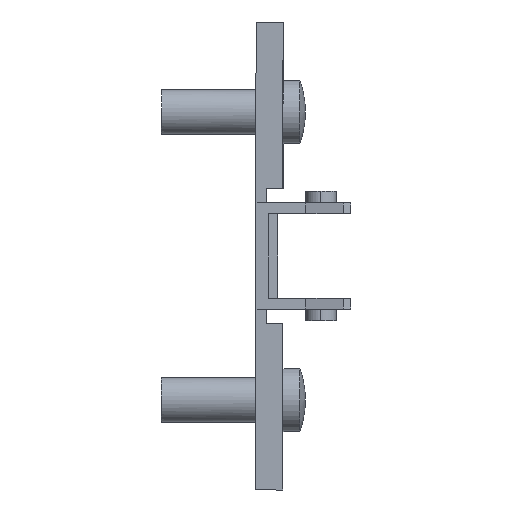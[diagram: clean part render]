
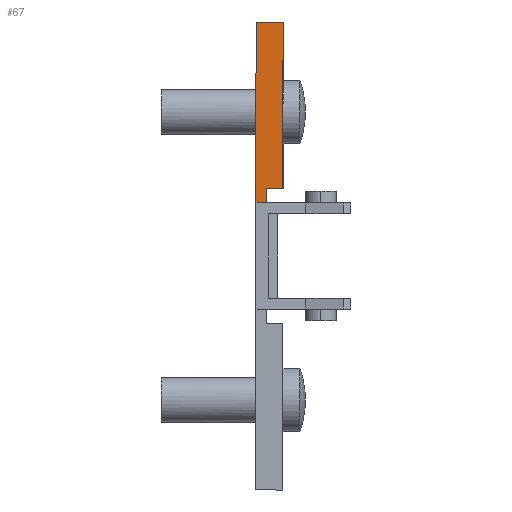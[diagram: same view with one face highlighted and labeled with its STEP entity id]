
A CAD part, front view. The second image highlights one B-rep face of the part: STEP entity #67.
In plain terms, the highlighted planar face has unit normal (0, -1, 0).
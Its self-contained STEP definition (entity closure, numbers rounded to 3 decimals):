
#67 = ADVANCED_FACE ( 'NONE', ( #201 ), #3260, .F. ) ;
#201 = FACE_OUTER_BOUND ( 'NONE', #541, .T. ) ;
#541 = EDGE_LOOP ( 'NONE', ( #940, #944, #945, #961, #962, #953 ) ) ;
#940 = ORIENTED_EDGE ( 'NONE', *, *, #2292, .F. ) ;
#944 = ORIENTED_EDGE ( 'NONE', *, *, #3212, .F. ) ;
#945 = ORIENTED_EDGE ( 'NONE', *, *, #2180, .F. ) ;
#953 = ORIENTED_EDGE ( 'NONE', *, *, #2650, .F. ) ;
#961 = ORIENTED_EDGE ( 'NONE', *, *, #3100, .F. ) ;
#962 = ORIENTED_EDGE ( 'NONE', *, *, #3401, .F. ) ;
#1285 = CARTESIAN_POINT ( 'NONE',  ( 3., -9., 7.5 ) ) ;
#1300 = CARTESIAN_POINT ( 'NONE',  ( 0., -9., 5.9 ) ) ;
#1302 = CARTESIAN_POINT ( 'NONE',  ( 0., -9., 26. ) ) ;
#1331 = CARTESIAN_POINT ( 'NONE',  ( 1.2, -9., 7.5 ) ) ;
#1332 = CARTESIAN_POINT ( 'NONE',  ( 1.2, -9., 5.9 ) ) ;
#1494 = CARTESIAN_POINT ( 'NONE',  ( 3., -9., 26. ) ) ;
#1531 = CARTESIAN_POINT ( 'NONE',  ( 3., -9., 7.5 ) ) ;
#1532 = DIRECTION ( 'NONE',  ( -1., 0., 0. ) ) ;
#1561 = CARTESIAN_POINT ( 'NONE',  ( 0., -9., 5.9 ) ) ;
#1562 = DIRECTION ( 'NONE',  ( -1., 0., 0. ) ) ;
#1603 = CARTESIAN_POINT ( 'NONE',  ( 3., -9., 26. ) ) ;
#1604 = DIRECTION ( 'NONE',  ( 0., 0., -1. ) ) ;
#1703 = DIRECTION ( 'NONE',  ( 0., 0., -1. ) ) ;
#1711 = DIRECTION ( 'NONE',  ( 1., 0., 0. ) ) ;
#1768 = CARTESIAN_POINT ( 'NONE',  ( 0., -9., 26. ) ) ;
#1832 = DIRECTION ( 'NONE',  ( 0., 0., 1. ) ) ;
#1834 = CARTESIAN_POINT ( 'NONE',  ( 0., -9., 5. ) ) ;
#1866 = CARTESIAN_POINT ( 'NONE',  ( 1.2, -9., 7.5 ) ) ;
#1957 = VECTOR ( 'NONE', #1832, 1000. ) ;
#1962 = LINE ( 'NONE', #1834, #1957 ) ;
#1970 = LINE ( 'NONE', #1866, #2003 ) ;
#2003 = VECTOR ( 'NONE', #1703, 1000. ) ;
#2064 = VECTOR ( 'NONE', #1604, 1000. ) ;
#2065 = LINE ( 'NONE', #1603, #2064 ) ;
#2100 = VECTOR ( 'NONE', #1562, 1000. ) ;
#2101 = LINE ( 'NONE', #1561, #2100 ) ;
#2148 = VECTOR ( 'NONE', #1532, 1000. ) ;
#2149 = LINE ( 'NONE', #1531, #2148 ) ;
#2168 = AXIS2_PLACEMENT_3D ( 'NONE', #3261, #3270, #3271 ) ;
#2180 = EDGE_CURVE ( 'NONE', #2879, #2880, #1970, .T. ) ;
#2292 = EDGE_CURVE ( 'NONE', #2848, #2850, #1962, .T. ) ;
#2425 = VECTOR ( 'NONE', #1711, 1000. ) ;
#2430 = LINE ( 'NONE', #1768, #2425 ) ;
#2650 = EDGE_CURVE ( 'NONE', #2850, #3023, #2430, .T. ) ;
#2832 = VERTEX_POINT ( 'NONE', #1285 ) ;
#2848 = VERTEX_POINT ( 'NONE', #1300 ) ;
#2850 = VERTEX_POINT ( 'NONE', #1302 ) ;
#2879 = VERTEX_POINT ( 'NONE', #1331 ) ;
#2880 = VERTEX_POINT ( 'NONE', #1332 ) ;
#3023 = VERTEX_POINT ( 'NONE', #1494 ) ;
#3100 = EDGE_CURVE ( 'NONE', #2832, #2879, #2149, .T. ) ;
#3212 = EDGE_CURVE ( 'NONE', #2880, #2848, #2101, .T. ) ;
#3260 = PLANE ( 'NONE',  #2168 ) ;
#3261 = CARTESIAN_POINT ( 'NONE',  ( 0., -9., 5. ) ) ;
#3270 = DIRECTION ( 'NONE',  ( 0., 1., 0. ) ) ;
#3271 = DIRECTION ( 'NONE',  ( 0., 0., 1. ) ) ;
#3401 = EDGE_CURVE ( 'NONE', #3023, #2832, #2065, .T. ) ;
